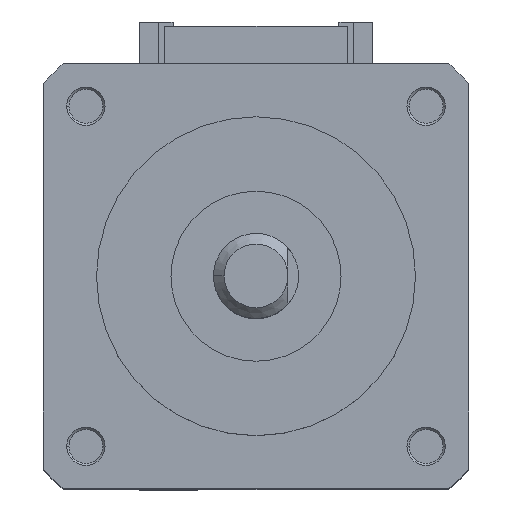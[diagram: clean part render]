
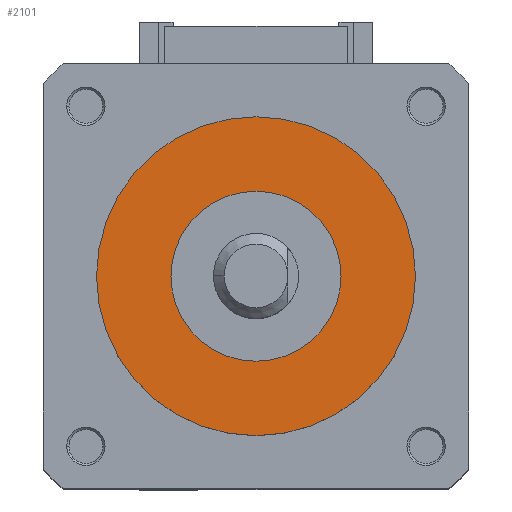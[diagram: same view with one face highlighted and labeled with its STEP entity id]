
A CAD part, top view. The second image highlights one B-rep face of the part: STEP entity #2101.
In plain terms, the highlighted planar face has unit normal (0, 0, 1).
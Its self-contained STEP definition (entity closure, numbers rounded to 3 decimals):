
#296 = EDGE_CURVE ( 'NONE', #1648, #1766, #2838, .T. ) ;
#297 = EDGE_CURVE ( 'NONE', #1708, #1650, #2839, .T. ) ;
#701 = DIRECTION ( 'NONE',  ( 1., 0., 0. ) ) ;
#703 = DIRECTION ( 'NONE',  ( 0., 0., 1. ) ) ;
#704 = CARTESIAN_POINT ( 'NONE',  ( 0., 0., 4.536 ) ) ;
#706 = DIRECTION ( 'NONE',  ( 1., 0., 0. ) ) ;
#707 = DIRECTION ( 'NONE',  ( 0., 0., 1. ) ) ;
#716 = CARTESIAN_POINT ( 'NONE',  ( 0., 0., 4.536 ) ) ;
#1118 = AXIS2_PLACEMENT_3D ( 'NONE', #704, #703, #701 ) ;
#1120 = AXIS2_PLACEMENT_3D ( 'NONE', #716, #707, #706 ) ;
#1281 = AXIS2_PLACEMENT_3D ( 'NONE', #5027, #5035, #5036 ) ;
#1362 = AXIS2_PLACEMENT_3D ( 'NONE', #2156, #2181, #2182 ) ;
#1366 = AXIS2_PLACEMENT_3D ( 'NONE', #2159, #2179, #2180 ) ;
#1648 = VERTEX_POINT ( 'NONE', #4257 ) ;
#1650 = VERTEX_POINT ( 'NONE', #4259 ) ;
#1708 = VERTEX_POINT ( 'NONE', #4317 ) ;
#1766 = VERTEX_POINT ( 'NONE', #4375 ) ;
#1976 = ORIENTED_EDGE ( 'NONE', *, *, #6018, .T. ) ;
#1977 = ORIENTED_EDGE ( 'NONE', *, *, #296, .T. ) ;
#1978 = ORIENTED_EDGE ( 'NONE', *, *, #6019, .F. ) ;
#1979 = ORIENTED_EDGE ( 'NONE', *, *, #297, .F. ) ;
#2101 = ADVANCED_FACE ( 'NONE', ( #3266, #3253 ), #5034, .T. ) ;
#2156 = CARTESIAN_POINT ( 'NONE',  ( 0., 0., 4.536 ) ) ;
#2159 = CARTESIAN_POINT ( 'NONE',  ( 0., 0., 4.536 ) ) ;
#2179 = DIRECTION ( 'NONE',  ( 0., 0., 1. ) ) ;
#2180 = DIRECTION ( 'NONE',  ( 1., 0., 0. ) ) ;
#2181 = DIRECTION ( 'NONE',  ( 0., 0., 1. ) ) ;
#2182 = DIRECTION ( 'NONE',  ( 1., 0., 0. ) ) ;
#2838 = CIRCLE ( 'NONE', #1120, 7.5 ) ;
#2839 = CIRCLE ( 'NONE', #1118, 4. ) ;
#3253 = FACE_OUTER_BOUND ( 'NONE', #7232, .T. ) ;
#3266 = FACE_BOUND ( 'NONE', #7251, .T. ) ;
#3886 = CIRCLE ( 'NONE', #1366, 7.5 ) ;
#3887 = CIRCLE ( 'NONE', #1362, 4. ) ;
#4257 = CARTESIAN_POINT ( 'NONE',  ( -7.5, 0., 4.536 ) ) ;
#4259 = CARTESIAN_POINT ( 'NONE',  ( -4., 0., 4.536 ) ) ;
#4317 = CARTESIAN_POINT ( 'NONE',  ( 4., 0., 4.536 ) ) ;
#4375 = CARTESIAN_POINT ( 'NONE',  ( 7.5, 0., 4.536 ) ) ;
#5027 = CARTESIAN_POINT ( 'NONE',  ( 0., 0., 4.536 ) ) ;
#5034 = PLANE ( 'NONE',  #1281 ) ;
#5035 = DIRECTION ( 'NONE',  ( 0., 0., 1. ) ) ;
#5036 = DIRECTION ( 'NONE',  ( 1., 0., 0. ) ) ;
#6018 = EDGE_CURVE ( 'NONE', #1766, #1648, #3886, .T. ) ;
#6019 = EDGE_CURVE ( 'NONE', #1650, #1708, #3887, .T. ) ;
#7232 = EDGE_LOOP ( 'NONE', ( #1977, #1976 ) ) ;
#7251 = EDGE_LOOP ( 'NONE', ( #1979, #1978 ) ) ;
